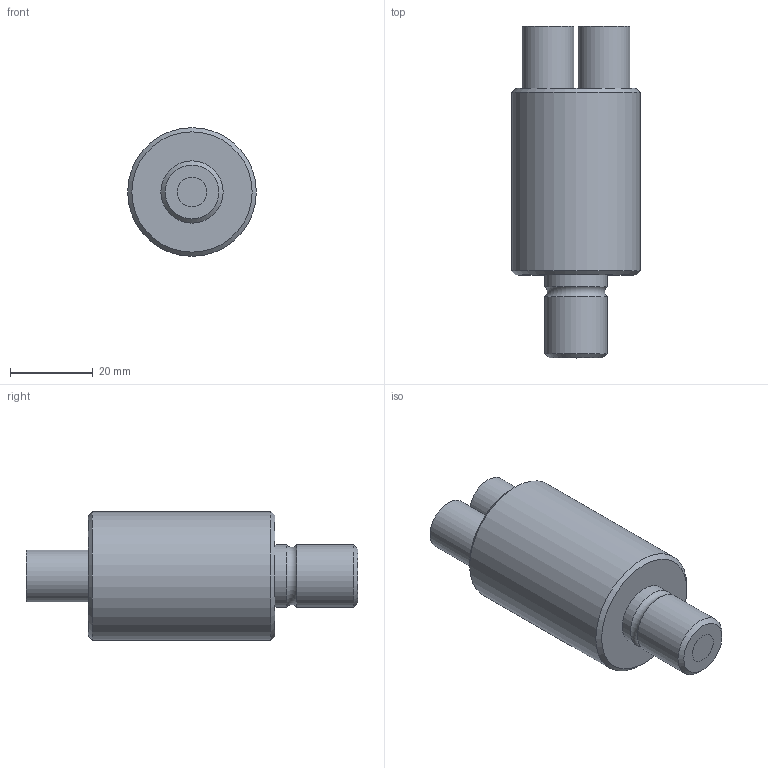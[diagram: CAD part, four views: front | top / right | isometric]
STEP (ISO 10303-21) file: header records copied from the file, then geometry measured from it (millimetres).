
FILE_DESCRIPTION(/* description */ (''),/* implementation_level */ '2;1');
FILE_NAME(/* name */ '//sv004/特品事業部/特品共通フォルダ/☆社外用データテスト/01_製品関連/0121_ライトガイド関連/3D図面/LGC2-5L 受光部.step',/* time_stamp */ '2022-09-27T14:23:28+09:00',/* author */ (''),/* organization */ (''),/* preprocessor_version */ 'ST-DEVELOPER v19',/* originating_system */ 'Autodesk Translation Framework v11.7.0.108',/* authorisation */ '');
FILE_SCHEMA (('AUTOMOTIVE_DESIGN { 1 0 10303 214 3 1 1 }'));
Length unit declared in the file: millimetre
Products named in the file (1): LGC2-5L 受光部
Bounding box: 31 x 80 x 31 mm (x, y, z)
Volume: 39828.9 mm3; surface area: 10952 mm2
Topology: 6 solids, 6 shells, 29 faces, 40 edges, 25 vertices
Faces by surface type: plane 14, cylinder 11, cone 3, torus 1
Full cylindrical faces by diameter (mm): 5 x4, 7.1 x2, 12.5 x2, 15 x2, 31 x1
Entity records: 656 total; most frequent: DIRECTION 126, CARTESIAN_POINT 95, ORIENTED_EDGE 80, AXIS2_PLACEMENT_3D 56, EDGE_CURVE 40, EDGE_LOOP 35, FACE_OUTER_BOUND 29, ADVANCED_FACE 29
